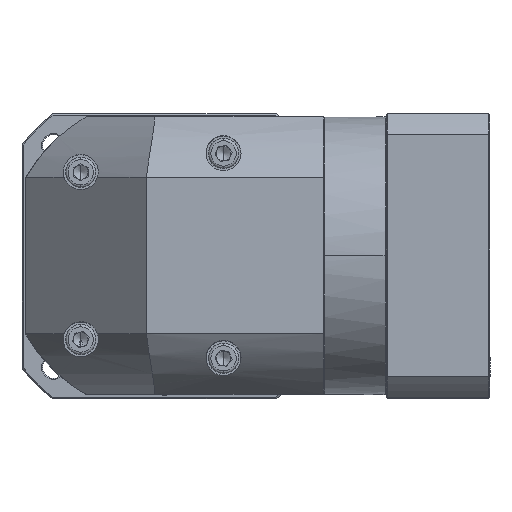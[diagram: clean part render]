
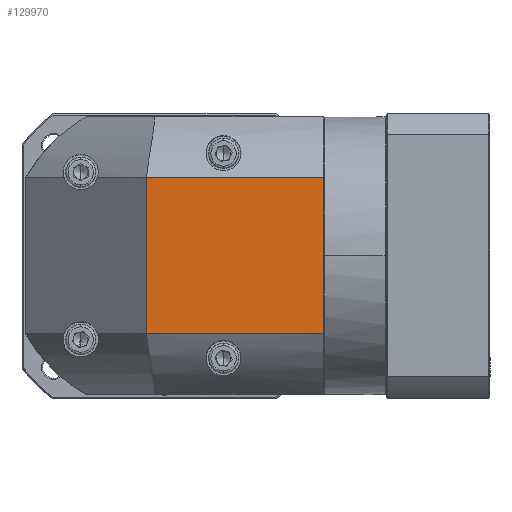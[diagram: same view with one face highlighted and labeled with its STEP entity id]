
A CAD part, top view. The second image highlights one B-rep face of the part: STEP entity #129970.
In plain terms, the highlighted planar face has unit normal (0, 0, 1).
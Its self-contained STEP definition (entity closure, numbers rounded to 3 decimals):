
#930 = DIRECTION ( 'NONE',  ( -1., 0., 0. ) ) ;
#1337 = EDGE_LOOP ( 'NONE', ( #106990, #103191, #111580, #113005 ) ) ;
#4801 = EDGE_CURVE ( 'NONE', #50916, #18562, #5823, .T. ) ;
#5275 = VECTOR ( 'NONE', #96830, 1000. ) ;
#5823 = LINE ( 'NONE', #125845, #5275 ) ;
#8645 = CARTESIAN_POINT ( 'NONE',  ( 98.359, 130.295, 73.941 ) ) ;
#8695 = EDGE_CURVE ( 'NONE', #18562, #28944, #61259, .T. ) ;
#9538 = DIRECTION ( 'NONE',  ( 0., 0., -1. ) ) ;
#14568 = CARTESIAN_POINT ( 'NONE',  ( -25.041, 105.194, 73.941 ) ) ;
#14893 = CARTESIAN_POINT ( 'NONE',  ( 24.959, 105.194, 73.941 ) ) ;
#16031 = FACE_OUTER_BOUND ( 'NONE', #1337, .T. ) ;
#18098 = CARTESIAN_POINT ( 'NONE',  ( 98.359, 105.194, 73.941 ) ) ;
#18562 = VERTEX_POINT ( 'NONE', #14893 ) ;
#21773 = DIRECTION ( 'NONE',  ( 0., -1., 0. ) ) ;
#28944 = VERTEX_POINT ( 'NONE', #18098 ) ;
#43100 = VECTOR ( 'NONE', #930, 1000. ) ;
#47996 = VECTOR ( 'NONE', #21773, 1000. ) ;
#50916 = VERTEX_POINT ( 'NONE', #102396 ) ;
#56668 = DIRECTION ( 'NONE',  ( 1., 0., 0. ) ) ;
#60726 = AXIS2_PLACEMENT_3D ( 'NONE', #101525, #9538, #102434 ) ;
#61259 = LINE ( 'NONE', #14568, #126467 ) ;
#62705 = LINE ( 'NONE', #124278, #43100 ) ;
#75326 = VERTEX_POINT ( 'NONE', #91362 ) ;
#91362 = CARTESIAN_POINT ( 'NONE',  ( 98.359, 40.395, 73.941 ) ) ;
#96830 = DIRECTION ( 'NONE',  ( 0., 1., 0. ) ) ;
#100976 = EDGE_CURVE ( 'NONE', #75326, #50916, #62705, .T. ) ;
#101525 = CARTESIAN_POINT ( 'NONE',  ( 32.459, 72.795, 73.941 ) ) ;
#102396 = CARTESIAN_POINT ( 'NONE',  ( 24.959, 40.395, 73.941 ) ) ;
#102434 = DIRECTION ( 'NONE',  ( 0., -1., 0. ) ) ;
#103191 = ORIENTED_EDGE ( 'NONE', *, *, #4801, .F. ) ;
#103317 = PLANE ( 'NONE',  #60726 ) ;
#106990 = ORIENTED_EDGE ( 'NONE', *, *, #8695, .F. ) ;
#111580 = ORIENTED_EDGE ( 'NONE', *, *, #100976, .F. ) ;
#113005 = ORIENTED_EDGE ( 'NONE', *, *, #126473, .F. ) ;
#120968 = LINE ( 'NONE', #8645, #47996 ) ;
#124278 = CARTESIAN_POINT ( 'NONE',  ( -25.041, 40.395, 73.941 ) ) ;
#125845 = CARTESIAN_POINT ( 'NONE',  ( 24.959, 130.295, 73.941 ) ) ;
#126467 = VECTOR ( 'NONE', #56668, 1000. ) ;
#126473 = EDGE_CURVE ( 'NONE', #28944, #75326, #120968, .T. ) ;
#129970 = ADVANCED_FACE ( 'NONE', ( #16031 ), #103317, .F. ) ;
